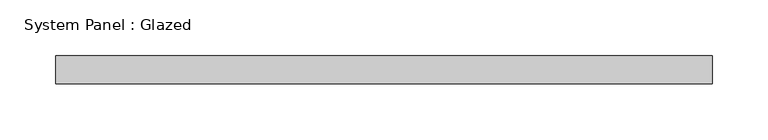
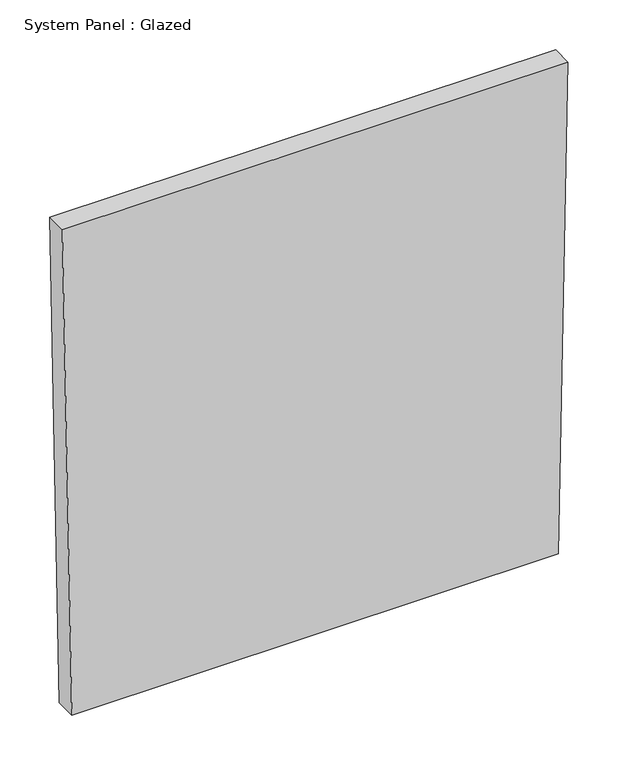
"""IFC4 building model written with IfcOpenShell, lengths in millimetres: plate geometry, System Panel : Glazed."""

from ifc_helpers import new_model, si_unit, frame, origin, place, context, project, spatial, polyline, outline, extrude, source, transform, mapped, element, save


def system_panel_glazed_840653ca(model_context):
    return source(origin(), model_context, "Body", "SweptSolid", [
        extrude(outline(polyline([(0.0, -282.5682746), (0.0, 282.5682746), (599.8976381, 293.6508662), (599.8976381, -293.6508662), (0.0, -282.5682746)])), frame((0.0, 24.5, 0.0), z_axis=(0.0, 1.0, 0.0), x_axis=(0.0, 0.0, 1.0)), (0.0, 0.0, 1.0), 25.0),
    ])


if __name__ == "__main__":
    model = new_model("IFC4")
    model_context = context("Model", 3, world=origin())
    ifc_project = project(units=[si_unit("LENGTHUNIT", "METRE", prefix="MILLI")], contexts=[model_context])
    site = spatial("IfcSite", under=ifc_project)
    building = spatial("IfcBuilding", under=site)
    placement = place(None, origin())
    system_panel_glazed_shape = system_panel_glazed_840653ca(model_context)
    element("IfcPlate", 1, ObjectType="System Panel : Glazed", at=placement, inside=building, context=model_context, shape_type="MappedRepresentation", body=[
        mapped(system_panel_glazed_shape, transform((0.0, 0.0, 0.0), x_axis=(1.0, 0.0, 0.0), y_axis=(0.0, 1.0, 0.0), z_axis=(0.0, 0.0, 1.0))),
    ])
    save(model, "model.ifc")
